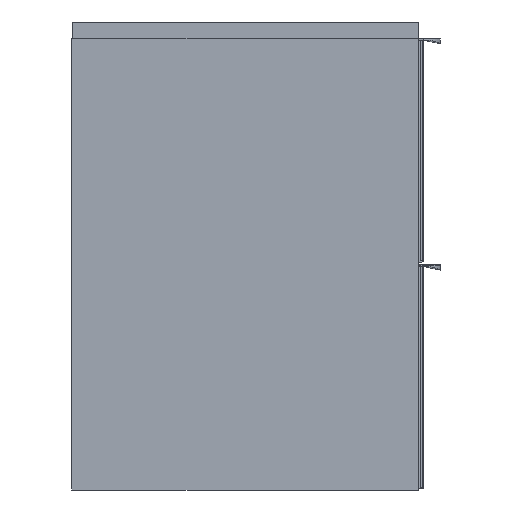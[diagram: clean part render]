
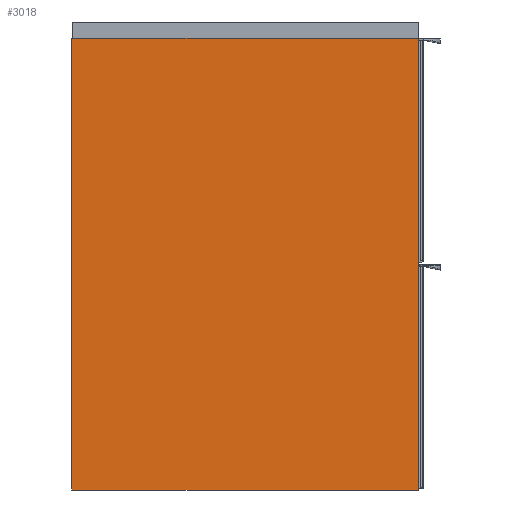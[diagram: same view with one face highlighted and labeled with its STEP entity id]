
A CAD part, left-side view. The second image highlights one B-rep face of the part: STEP entity #3018.
In plain terms, the highlighted planar face has unit normal (-1, 0, 0).
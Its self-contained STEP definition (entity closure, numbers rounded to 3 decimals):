
#3018=ADVANCED_FACE('',(#4276),#22083,.T.);
#4276=FACE_OUTER_BOUND('',#5692,.T.);
#5692=EDGE_LOOP('',(#12623,#12624,#12625,#12626));
#12623=ORIENTED_EDGE('',*,*,#16113,.F.);
#12624=ORIENTED_EDGE('',*,*,#16114,.F.);
#12625=ORIENTED_EDGE('',*,*,#16110,.F.);
#12626=ORIENTED_EDGE('',*,*,#16105,.F.);
#16105=EDGE_CURVE('',#21190,#21191,#18848,.T.);
#16110=EDGE_CURVE('',#21191,#21194,#18853,.T.);
#16113=EDGE_CURVE('',#21195,#21190,#18856,.T.);
#16114=EDGE_CURVE('',#21194,#21195,#18857,.T.);
#18848=B_SPLINE_CURVE_WITH_KNOTS('',1,(#42949,#42950),.UNSPECIFIED.,.F.,
 .F.,(2,2),(0.,500.),.UNSPECIFIED.);
#18853=B_SPLINE_CURVE_WITH_KNOTS('',1,(#42959,#42960),.UNSPECIFIED.,.F.,
 .F.,(2,2),(-384.,0.),.UNSPECIFIED.);
#18856=B_SPLINE_CURVE_WITH_KNOTS('',1,(#42965,#42966),.UNSPECIFIED.,.F.,
 .F.,(2,2),(-384.,0.),.UNSPECIFIED.);
#18857=B_SPLINE_CURVE_WITH_KNOTS('',1,(#42967,#42968),.UNSPECIFIED.,.F.,
 .F.,(2,2),(-500.,0.),.UNSPECIFIED.);
#21190=VERTEX_POINT('',#42939);
#21191=VERTEX_POINT('',#42940);
#21194=VERTEX_POINT('',#42943);
#21195=VERTEX_POINT('',#42944);
#22083=PLANE('',#23651);
#23651=AXIS2_PLACEMENT_3D('',#42936,#24708,$);
#24708=DIRECTION('',(-1.,0.,0.));
#42936=CARTESIAN_POINT('',(1393.637,-3741.779,-40.828));
#42939=CARTESIAN_POINT('',(1393.637,-3703.259,-90.948));
#42940=CARTESIAN_POINT('',(1393.637,-3703.259,-590.948));
#42943=CARTESIAN_POINT('',(1393.637,-3319.259,-590.948));
#42944=CARTESIAN_POINT('',(1393.637,-3319.259,-90.948));
#42949=CARTESIAN_POINT('',(1393.637,-3703.259,-90.948));
#42950=CARTESIAN_POINT('',(1393.637,-3703.259,-590.948));
#42959=CARTESIAN_POINT('',(1393.637,-3703.259,-590.948));
#42960=CARTESIAN_POINT('',(1393.637,-3319.259,-590.948));
#42965=CARTESIAN_POINT('',(1393.637,-3319.259,-90.948));
#42966=CARTESIAN_POINT('',(1393.637,-3703.259,-90.948));
#42967=CARTESIAN_POINT('',(1393.637,-3319.259,-590.948));
#42968=CARTESIAN_POINT('',(1393.637,-3319.259,-90.948));
